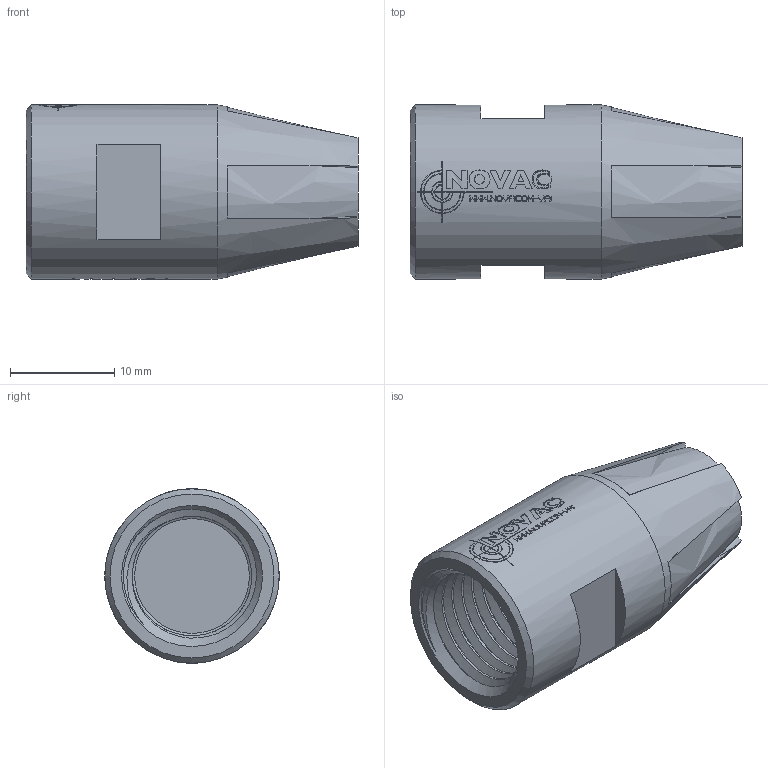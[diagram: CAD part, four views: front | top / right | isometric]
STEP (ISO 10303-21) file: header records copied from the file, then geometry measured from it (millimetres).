
FILE_DESCRIPTION (( 'STEP AP214' ), '1' );
FILE_NAME ('STEP - BS_5_F14.STEP', '2023-07-19T13:41:10', ( '' ), ( '' ), 'SwSTEP 2.0', 'SolidWorks 2021', '' );
FILE_SCHEMA (( 'AUTOMOTIVE_DESIGN' ));
Length unit declared in the file: millimetre
Products named in the file (1): STEP - BS_5_F14
Bounding box: 31.8 x 16.7 x 16.7 mm (x, y, z)
Volume: 4426.1 mm3; surface area: 2703.6 mm2
Topology: 1 solids, 1 shells, 490 faces, 1334 edges, 895 vertices
Faces by surface type: bspline 355, plane 69, cylinder 58, cone 8
Full cylindrical faces by diameter (mm): 11 x1, 16.7 x1
Entity records: 38641 total; most frequent: CARTESIAN_POINT 24905, ORIENTED_EDGE 2644, EDGE_CURVE 1322, B_SPLINE_CURVE_WITH_KNOTS 1141, VERTEX_POINT 890, EDGE_LOOP 546, DIRECTION 525, FACE_OUTER_BOUND 492
